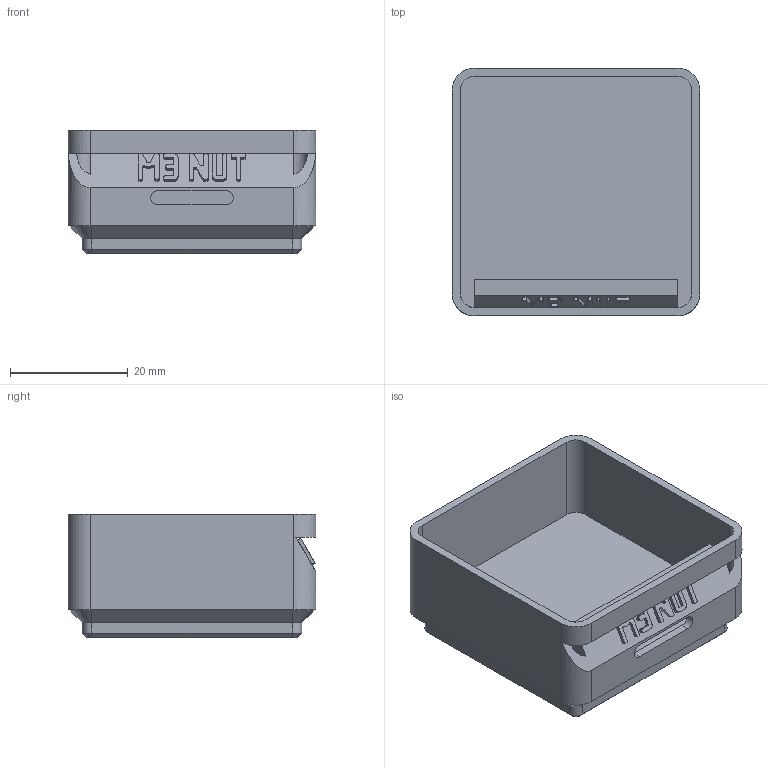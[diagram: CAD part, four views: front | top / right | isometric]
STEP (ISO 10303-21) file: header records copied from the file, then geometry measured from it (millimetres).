
FILE_DESCRIPTION(('Open CASCADE Model'),'2;1');
FILE_NAME('Open CASCADE Shape Model','2026-11-03T17:13:39',('Author'),( 'Open CASCADE'),'Open CASCADE STEP processor 8.0','build123d', 'Unknown');
FILE_SCHEMA(('AUTOMOTIVE_DESIGN { 1 0 10303 214 1 1 1 1 }'));
Length unit declared in the file: millimetre
Products named in the file (1): COMPOUND
Bounding box: 42 x 42 x 21 mm (x, y, z)
Volume: 12848.8 mm3; surface area: 9288 mm2
Topology: 1 solids, 1 shells, 469 faces, 1368 edges, 906 vertices
Faces by surface type: plane 447, cylinder 14, cone 8
Entity records: 32132 total; most frequent: CARTESIAN_POINT 6480, DIRECTION 4156, LINE 3100, VECTOR 3100, ORIENTED_EDGE 2736, PCURVE 2736, DEFINITIONAL_REPRESENTATION 2736, EDGE_CURVE 1368
